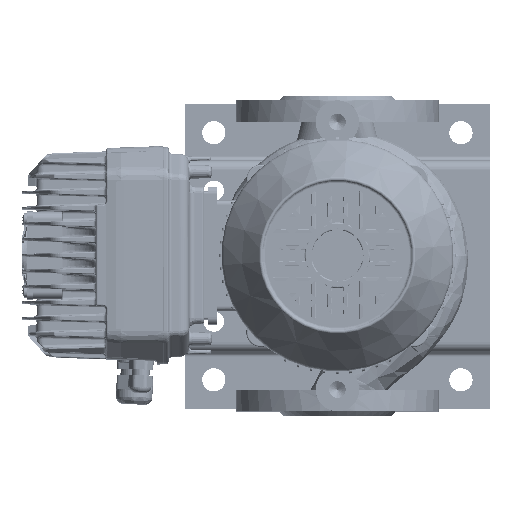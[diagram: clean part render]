
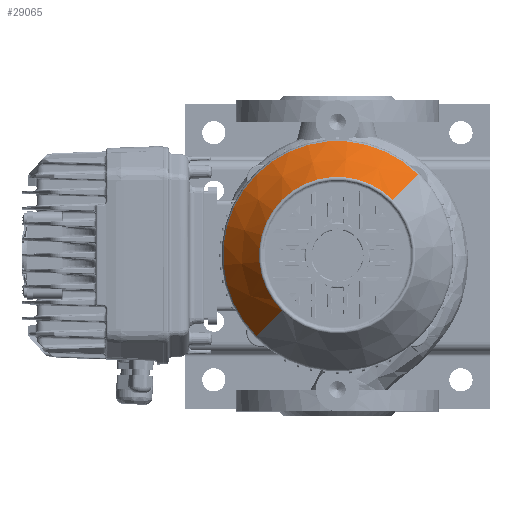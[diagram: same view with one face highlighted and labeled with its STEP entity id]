
A CAD part, top view. The second image highlights one B-rep face of the part: STEP entity #29065.
In plain terms, the highlighted conical face has half-angle 37 degrees and reference radius 53.876 mm.
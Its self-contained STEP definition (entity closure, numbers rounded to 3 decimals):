
#29065=ADVANCED_FACE('NONE',(#100218),#100219,.T.);
#100218=FACE_OUTER_BOUND('',#156110,.T.);
#100219=CONICAL_SURFACE('',#156111,53.876,0.646);
#156110=EDGE_LOOP('',(#186949,#186950,#186951,#186952));
#156111=AXIS2_PLACEMENT_3D('',#186953,#186954,#186955);
#186949=ORIENTED_EDGE('',*,*,#214312,.T.);
#186950=ORIENTED_EDGE('',*,*,#214390,.T.);
#186951=ORIENTED_EDGE('',*,*,#214313,.T.);
#186952=ORIENTED_EDGE('',*,*,#214416,.F.);
#186953=CARTESIAN_POINT('',(0.,87.403,0.0));
#186954=DIRECTION('',(0.,-1.0,0.));
#186955=DIRECTION('',(0.,0.0,-1.0));
#214312=EDGE_CURVE('',#304916,#304919,#304920,.T.);
#214313=EDGE_CURVE('',#304921,#304914,#304922,.T.);
#214390=EDGE_CURVE('NONE',#304919,#304921,#305053,.T.);
#214416=EDGE_CURVE('NONE',#304916,#304914,#305085,.T.);
#304914=VERTEX_POINT('',#340665);
#304916=VERTEX_POINT('NONE',#340667);
#304919=VERTEX_POINT('NONE',#340670);
#304920=LINE('',#340671,#340672);
#304921=VERTEX_POINT('',#340673);
#304922=LINE('',#340674,#340675);
#305053=CIRCLE('',#341164,78.592);
#305085=CIRCLE('',#341382,53.876);
#340665=CARTESIAN_POINT('',(0.,87.403,53.876));
#340667=CARTESIAN_POINT('',(0.,87.403,-53.876));
#340670=CARTESIAN_POINT('',(0.,54.603,-78.592));
#340671=CARTESIAN_POINT('',(0.,87.403,-53.876));
#340672=VECTOR('',#351018,1.0);
#340673=CARTESIAN_POINT('',(0.,54.603,78.592));
#340674=CARTESIAN_POINT('',(0.,87.403,53.876));
#340675=VECTOR('',#351019,1.0);
#341164=AXIS2_PLACEMENT_3D('',#351146,#351147,#351148);
#341382=AXIS2_PLACEMENT_3D('',#351206,#351207,#351208);
#351018=DIRECTION('',(0.,-0.799,-0.602));
#351019=DIRECTION('',(0.,0.799,-0.602));
#351146=CARTESIAN_POINT('',(0.,54.603,0.0));
#351147=DIRECTION('',(0.,1.0,0.));
#351148=DIRECTION('',(0.,0.0,1.0));
#351206=CARTESIAN_POINT('',(0.,87.403,0.0));
#351207=DIRECTION('',(0.,1.0,0.));
#351208=DIRECTION('',(0.,0.0,1.0));
